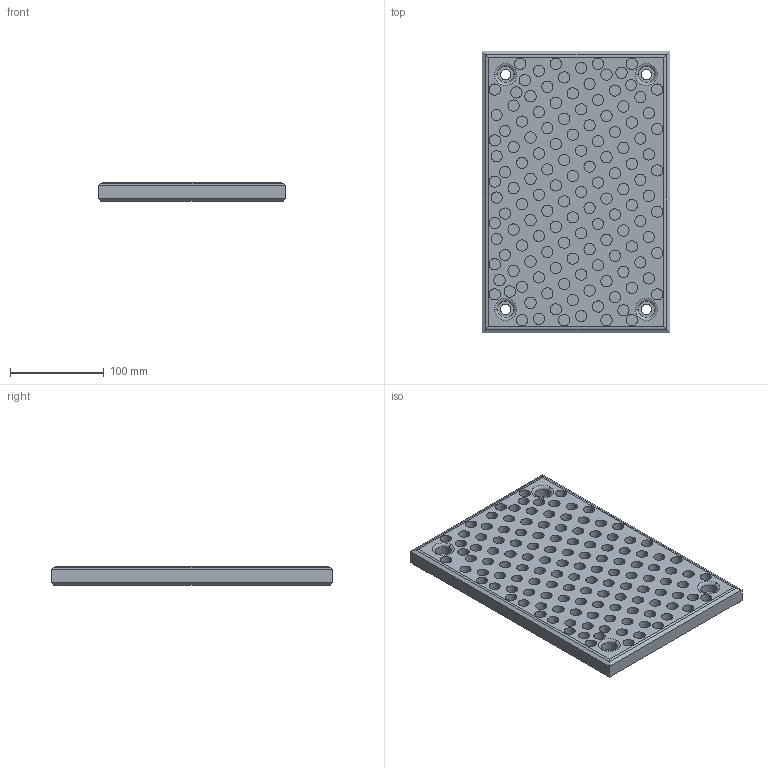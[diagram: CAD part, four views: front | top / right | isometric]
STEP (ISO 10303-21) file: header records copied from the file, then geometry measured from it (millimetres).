
FILE_DESCRIPTION (( 'STEP AP214' ), '1' );
FILE_NAME ('SW224-02-200x300.STEP', '2020-10-19T08:14:08', ( 'August' ), ( '' ), 'SwSTEP 2.0', 'SolidWorks 2018', '' );
FILE_SCHEMA (( 'AUTOMOTIVE_DESIGN' ));
Length unit declared in the file: millimetre
Products named in the file (1): SW224-02-200x300
Bounding box: 200 x 300 x 20 mm (x, y, z)
Volume: 1033039.5 mm3; surface area: 185324.1 mm2
Topology: 1 solids, 1 shells, 445 faces, 898 edges, 592 vertices
Faces by surface type: cylinder 286, plane 151, torus 8
Entity records: 12507 total; most frequent: DIRECTION 2358, CARTESIAN_POINT 2019, ORIENTED_EDGE 1796, AXIS2_PLACEMENT_3D 1026, EDGE_CURVE 898, VERTEX_POINT 592, EDGE_LOOP 590, CIRCLE 580
